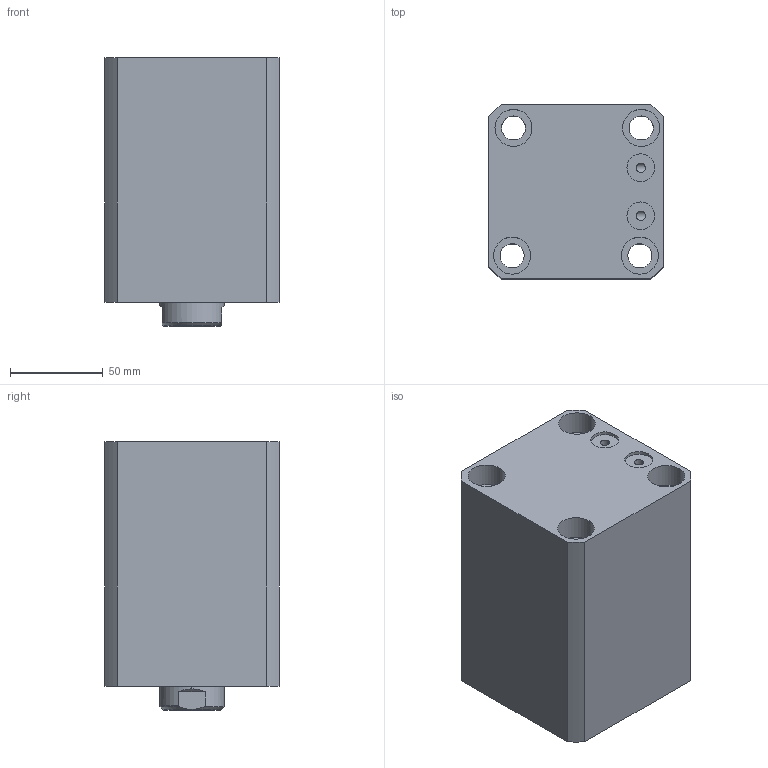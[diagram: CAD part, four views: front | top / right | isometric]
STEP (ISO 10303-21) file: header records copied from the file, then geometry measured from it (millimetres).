
FILE_DESCRIPTION (( 'STEP AP214' ), '1' );
FILE_NAME ('chtb-sdmb63x65n_asm.STEP', '2018-05-16T06:51:28', ( 'Windows' ), ( 'Microsoft' ), 'SwSTEP 2.0', 'SolidWorks 2015', '' );
FILE_SCHEMA (( 'AUTOMOTIVE_DESIGN' ));
Length unit declared in the file: millimetre
Products named in the file (4): CHTB-SDMB63X65NBT; CHTB63X65NHSG; CHTB-63QG; chtb-sdmb63x65n_asm
Assembly tree (3 placements, depth 2):
  chtb-sdmb63x65n_asm
    CHTB-63QG
    CHTB63X65NHSG
    CHTB-SDMB63X65NBT
Bounding box: 94 x 94 x 145 mm (x, y, z)
Volume: 926546.2 mm3; surface area: 157823.8 mm2
Topology: 3 solids, 3 shells, 164 faces, 468 edges, 318 vertices
Faces by surface type: cylinder 107, plane 30, bspline 12, cone 8, torus 7
Entity records: 17708 total; most frequent: CARTESIAN_POINT 13594, ORIENTED_EDGE 924, DIRECTION 707, EDGE_CURVE 462, VERTEX_POINT 318, AXIS2_PLACEMENT_3D 284, EDGE_LOOP 196, ADVANCED_FACE 164
